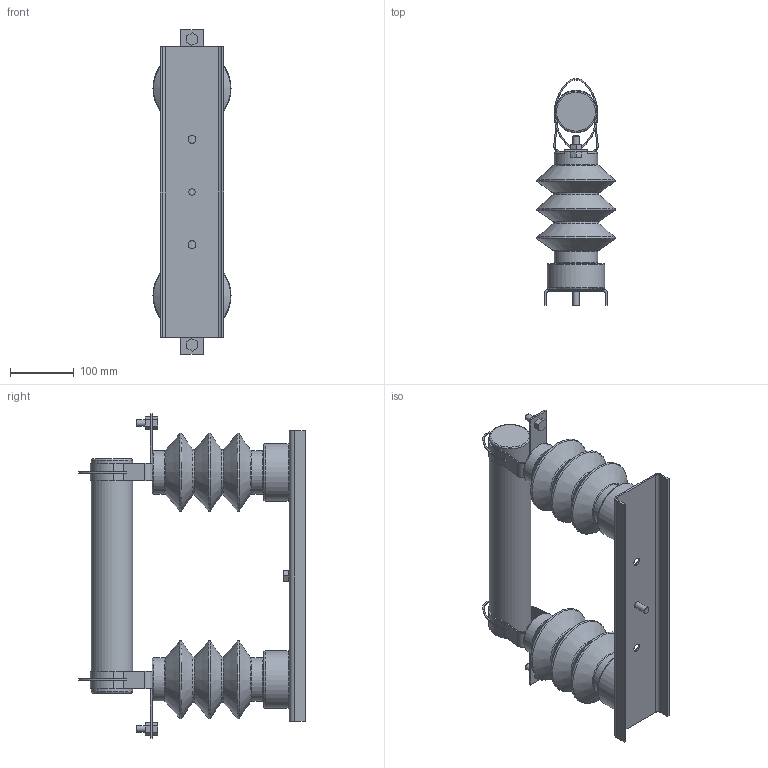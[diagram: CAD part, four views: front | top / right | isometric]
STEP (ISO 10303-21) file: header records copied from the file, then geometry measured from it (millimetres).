
FILE_DESCRIPTION (( 'STEP AP214' ), '1' );
FILE_NAME ('Ïðåäîõðàíèòåëü ÏÊÒ-Ô-10 12-Ó1.STEP', '2023-03-03T08:10:10', ( '' ), ( '' ), 'SwSTEP 2.0', 'SolidWorks 2018', '' );
FILE_SCHEMA (( 'AUTOMOTIVE_DESIGN' ));
Length unit declared in the file: millimetre
Products named in the file (1): Ïðåäîõðàíèòåëü ÏÊÒ-Ô-10 12-Ó1
Bounding box: 122.53 x 355 x 509 mm (x, y, z)
Volume: 4287719.6 mm3; surface area: 410448.7 mm2
Topology: 1 solids, 3 shells, 206 faces, 557 edges, 364 vertices
Faces by surface type: plane 119, cylinder 49, torus 24, cone 14
Full cylindrical faces by diameter (mm): 10 x4, 12 x2, 12.5 x2, 65 x1, 68 x4, 90 x2
Entity records: 6016 total; most frequent: CARTESIAN_POINT 1071, DIRECTION 1036, ORIENTED_EDGE 944, EDGE_CURVE 472, AXIS2_PLACEMENT_3D 361, VERTEX_POINT 332, VECTOR 314, LINE 314
